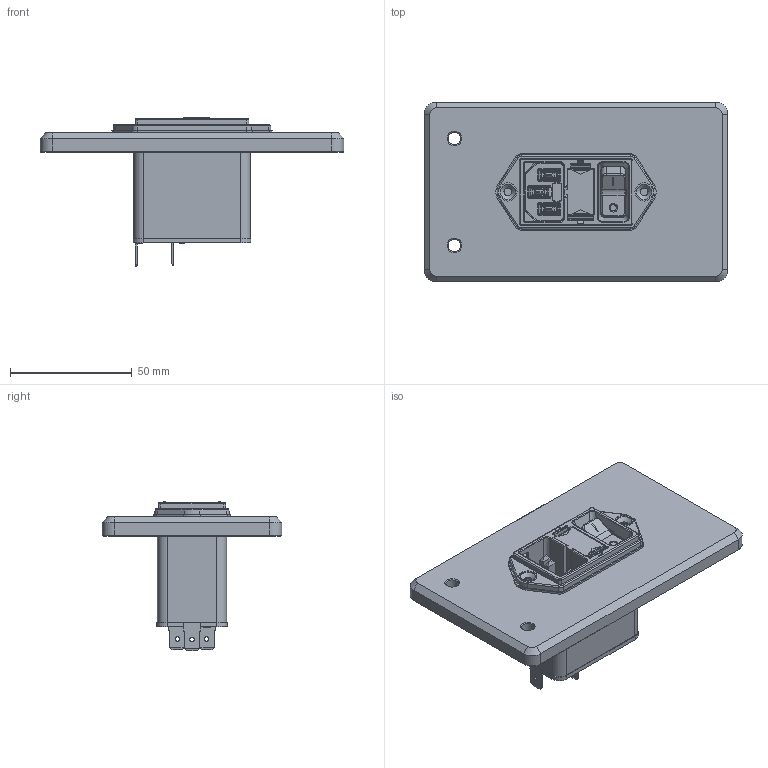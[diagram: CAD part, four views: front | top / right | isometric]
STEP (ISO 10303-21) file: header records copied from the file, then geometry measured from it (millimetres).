
FILE_DESCRIPTION(/* description */ (''),/* implementation_level */ '2;1');
FILE_NAME(/* name */ '/Users/niels/Desktop/Schurter DD12 inlet export v1.step',/* time_stamp */ '2022-02-06T19:41:16+01:00',/* author */ (''),/* organization */ (''),/* preprocessor_version */ 'ST-DEVELOPER v18.1',/* originating_system */ 'Autodesk Translation Framework v10.13.0.1454',/* authorisation */ '');
FILE_SCHEMA (('AUTOMOTIVE_DESIGN { 1 0 10303 214 3 1 1 }'));
Length unit declared in the file: millimetre
Products named in the file (2): Schurter DD12 inlet export; e_0100.2575_002
Assembly tree (1 placements, depth 2):
  Schurter DD12 inlet export
    e_0100.2575_002
Bounding box: 125 x 74 x 61.3 mm (x, y, z)
Volume: 63859.9 mm3; surface area: 59049.2 mm2
Topology: 2 solids, 4 shells, 1012 faces, 2605 edges, 1614 vertices
Faces by surface type: plane 575, cylinder 235, cone 114, bspline 40, torus 36, sphere 12
Full cylindrical faces by diameter (mm): 1.8 x3, 2 x1, 2.3 x2, 2.5 x1, 2.6 x1, 3 x5, 3.15 x2, 3.25 x2, 3.4 x2, 3.5 x1, 4.6 x4, 5.2 x2, 6.3 x2, 7.5 x2
Entity records: 34788 total; most frequent: CARTESIAN_POINT 9825, ORIENTED_EDGE 5186, DIRECTION 5178, EDGE_CURVE 2593, LINE 1862, VECTOR 1862, AXIS2_PLACEMENT_3D 1658, VERTEX_POINT 1614
